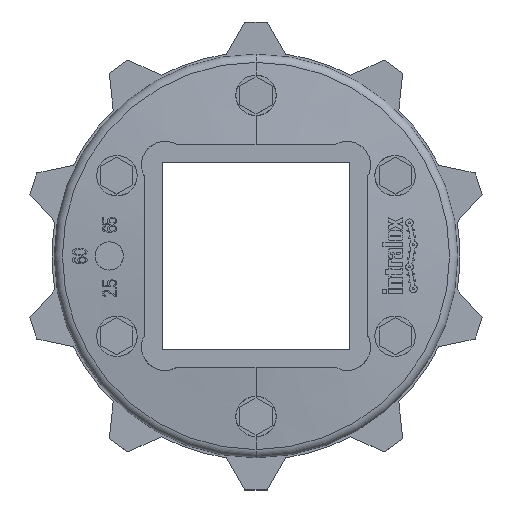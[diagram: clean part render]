
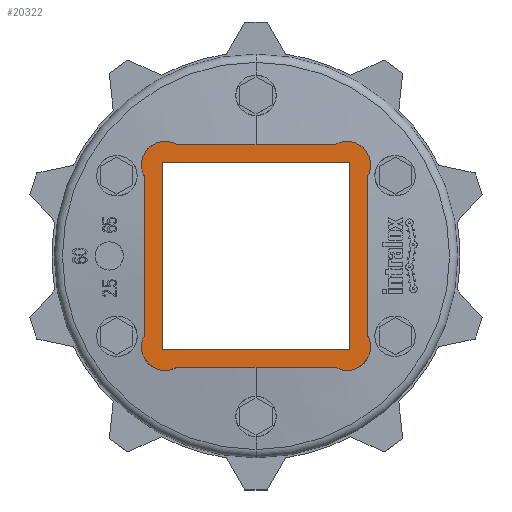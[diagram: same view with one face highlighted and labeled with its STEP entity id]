
A CAD part, top view. The second image highlights one B-rep face of the part: STEP entity #20322.
In plain terms, the highlighted planar face has unit normal (0, 0, 1) as drawn and (0, 1, 0) by its records, which use the part's own axes.
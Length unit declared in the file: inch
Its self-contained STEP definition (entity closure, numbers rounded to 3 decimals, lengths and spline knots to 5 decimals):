
#9654=DIRECTION('',(0.,0.,1.));
#9655=VECTOR('',#9654,2.16129);
#9656=CARTESIAN_POINT('',(-1.5175,0.67,-1.08065));
#9657=LINE('',#9656,#9655);
#9658=CARTESIAN_POINT('',(-1.24,0.67,-1.24));
#9659=DIRECTION('',(0.,1.,0.));
#9660=DIRECTION('',(0.498,0.,-0.867));
#9661=AXIS2_PLACEMENT_3D('',#9658,#9659,#9660);
#9663=DIRECTION('',(-1.,0.,0.));
#9664=VECTOR('',#9663,2.16129);
#9665=CARTESIAN_POINT('',(1.08065,0.67,-1.5175));
#9666=LINE('',#9665,#9664);
#9667=CARTESIAN_POINT('',(1.24,0.67,-1.24));
#9668=DIRECTION('',(0.,1.,0.));
#9669=DIRECTION('',(0.867,0.,0.498));
#9670=AXIS2_PLACEMENT_3D('',#9667,#9668,#9669);
#9672=DIRECTION('',(0.,0.,-1.));
#9673=VECTOR('',#9672,2.16129);
#9674=CARTESIAN_POINT('',(1.5175,0.67,1.08065));
#9675=LINE('',#9674,#9673);
#9676=CARTESIAN_POINT('',(1.24,0.67,1.24));
#9677=DIRECTION('',(0.,1.,0.));
#9678=DIRECTION('',(-0.498,0.,0.867));
#9679=AXIS2_PLACEMENT_3D('',#9676,#9677,#9678);
#9681=DIRECTION('',(1.,0.,0.));
#9682=VECTOR('',#9681,2.16129);
#9683=CARTESIAN_POINT('',(-1.08065,0.67,1.5175));
#9684=LINE('',#9683,#9682);
#9685=CARTESIAN_POINT('',(-1.24,0.67,1.24));
#9686=DIRECTION('',(0.,1.,0.));
#9687=DIRECTION('',(-0.867,0.,-0.498));
#9688=AXIS2_PLACEMENT_3D('',#9685,#9686,#9687);
#9690=DIRECTION('',(-1.,0.,0.));
#9691=VECTOR('',#9690,2.559);
#9692=CARTESIAN_POINT('',(1.2795,0.67,-1.2795));
#9693=LINE('',#9692,#9691);
#9694=DIRECTION('',(0.,0.,1.));
#9695=VECTOR('',#9694,2.559);
#9696=CARTESIAN_POINT('',(-1.2795,0.67,-1.2795));
#9697=LINE('',#9696,#9695);
#9698=DIRECTION('',(1.,0.,0.));
#9699=VECTOR('',#9698,2.559);
#9700=CARTESIAN_POINT('',(-1.2795,0.67,1.2795));
#9701=LINE('',#9700,#9699);
#9702=DIRECTION('',(0.,0.,-1.));
#9703=VECTOR('',#9702,2.559);
#9704=CARTESIAN_POINT('',(1.2795,0.67,1.2795));
#9705=LINE('',#9704,#9703);
#11424=CARTESIAN_POINT('',(-1.5175,0.67,-1.08065));
#11425=CARTESIAN_POINT('',(-1.5175,0.67,1.08065));
#11426=VERTEX_POINT('',#11424);
#11427=VERTEX_POINT('',#11425);
#11428=CARTESIAN_POINT('',(-1.08065,0.67,1.5175));
#11429=VERTEX_POINT('',#11428);
#11430=CARTESIAN_POINT('',(1.08065,0.67,1.5175));
#11431=VERTEX_POINT('',#11430);
#11432=CARTESIAN_POINT('',(1.5175,0.67,1.08065));
#11433=VERTEX_POINT('',#11432);
#11434=CARTESIAN_POINT('',(1.5175,0.67,-1.08065));
#11435=VERTEX_POINT('',#11434);
#11436=CARTESIAN_POINT('',(1.08065,0.67,-1.5175));
#11437=VERTEX_POINT('',#11436);
#11438=CARTESIAN_POINT('',(-1.08065,0.67,-1.5175));
#11439=VERTEX_POINT('',#11438);
#12514=CARTESIAN_POINT('',(1.2795,0.67,-1.2795));
#12515=CARTESIAN_POINT('',(-1.2795,0.67,-1.2795));
#12516=VERTEX_POINT('',#12514);
#12517=VERTEX_POINT('',#12515);
#12518=CARTESIAN_POINT('',(-1.2795,0.67,1.2795));
#12519=VERTEX_POINT('',#12518);
#12520=CARTESIAN_POINT('',(1.2795,0.67,1.2795));
#12521=VERTEX_POINT('',#12520);
#20297=CARTESIAN_POINT('',(0.,0.67,0.));
#20298=DIRECTION('',(0.,1.,0.));
#20299=DIRECTION('',(-1.,0.,0.));
#20300=AXIS2_PLACEMENT_3D('',#20297,#20298,#20299);
#20301=PLANE('',#20300);
#20302=ORIENTED_EDGE('',*,*,#20191,.F.);
#20303=ORIENTED_EDGE('',*,*,#20207,.F.);
#20304=ORIENTED_EDGE('',*,*,#20221,.F.);
#20305=ORIENTED_EDGE('',*,*,#20235,.F.);
#20306=ORIENTED_EDGE('',*,*,#20250,.F.);
#20307=ORIENTED_EDGE('',*,*,#20264,.F.);
#20308=ORIENTED_EDGE('',*,*,#20278,.F.);
#20309=ORIENTED_EDGE('',*,*,#20291,.F.);
#20310=EDGE_LOOP('',(#20302,#20303,#20304,#20305,#20306,#20307,#20308,#20309));
#20311=FACE_OUTER_BOUND('',#20310,.F.);
#20313=ORIENTED_EDGE('',*,*,#20312,.T.);
#20315=ORIENTED_EDGE('',*,*,#20314,.T.);
#20317=ORIENTED_EDGE('',*,*,#20316,.T.);
#20319=ORIENTED_EDGE('',*,*,#20318,.T.);
#20320=EDGE_LOOP('',(#20313,#20315,#20317,#20319));
#20321=FACE_BOUND('',#20320,.F.);
#20322=ADVANCED_FACE('',(#20311,#20321),#20301,.T.);
#9662=CIRCLE('',#9661,0.32);
#9671=CIRCLE('',#9670,0.32);
#9680=CIRCLE('',#9679,0.32);
#9689=CIRCLE('',#9688,0.32);
#20191=EDGE_CURVE('',#11426,#11427,#9657,.T.);
#20207=EDGE_CURVE('',#11439,#11426,#9662,.T.);
#20221=EDGE_CURVE('',#11437,#11439,#9666,.T.);
#20235=EDGE_CURVE('',#11435,#11437,#9671,.T.);
#20250=EDGE_CURVE('',#11433,#11435,#9675,.T.);
#20264=EDGE_CURVE('',#11431,#11433,#9680,.T.);
#20278=EDGE_CURVE('',#11429,#11431,#9684,.T.);
#20291=EDGE_CURVE('',#11427,#11429,#9689,.T.);
#20312=EDGE_CURVE('',#12516,#12517,#9693,.T.);
#20314=EDGE_CURVE('',#12517,#12519,#9697,.T.);
#20316=EDGE_CURVE('',#12519,#12521,#9701,.T.);
#20318=EDGE_CURVE('',#12521,#12516,#9705,.T.);
